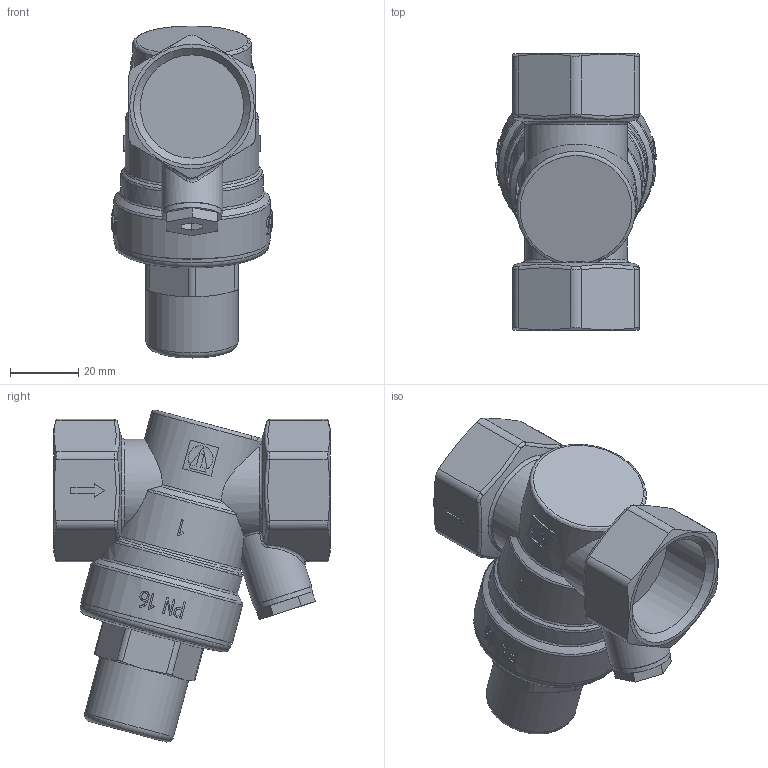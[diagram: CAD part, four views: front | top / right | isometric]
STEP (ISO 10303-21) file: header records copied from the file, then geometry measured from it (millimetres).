
FILE_DESCRIPTION(('STEP AP203'), '1');
FILE_NAME('VT.089.N.06 Ðåäóêòîð äàâëåíèÿ ìåìáðàííûé ðåãóëèðóåìûé DN25', '2023-06-23T11:38:05', ('IT'), ('VESTA'), 'C3D Converter', 'C3D Toolkit', '');
FILE_SCHEMA(('CONFIG_CONTROL_DESIGN'));
Length unit declared in the file: millimetre
Bounding box: 46.95 x 81 x 97.34 mm (x, y, z)
Volume: 125856.4 mm3; surface area: 24618.3 mm2
Topology: 1 solids, 1 shells, 514 faces, 1396 edges, 914 vertices
Faces by surface type: plane 204, extrusion 187, cylinder 55, bspline 33, torus 18, cone 17
Full cylindrical faces by diameter (mm): 8 x1, 17.5 x1, 18 x1, 27 x1, 30.292 x2, 45.5 x1, 46 x1
Entity records: 31921 total; most frequent: CARTESIAN_POINT 16212, ORIENTED_EDGE 2756, DIRECTION 1656, EDGE_CURVE 1378, VERTEX_POINT 914, VECTOR 770, B_SPLINE_CURVE_WITH_KNOTS 758, LINE 583
